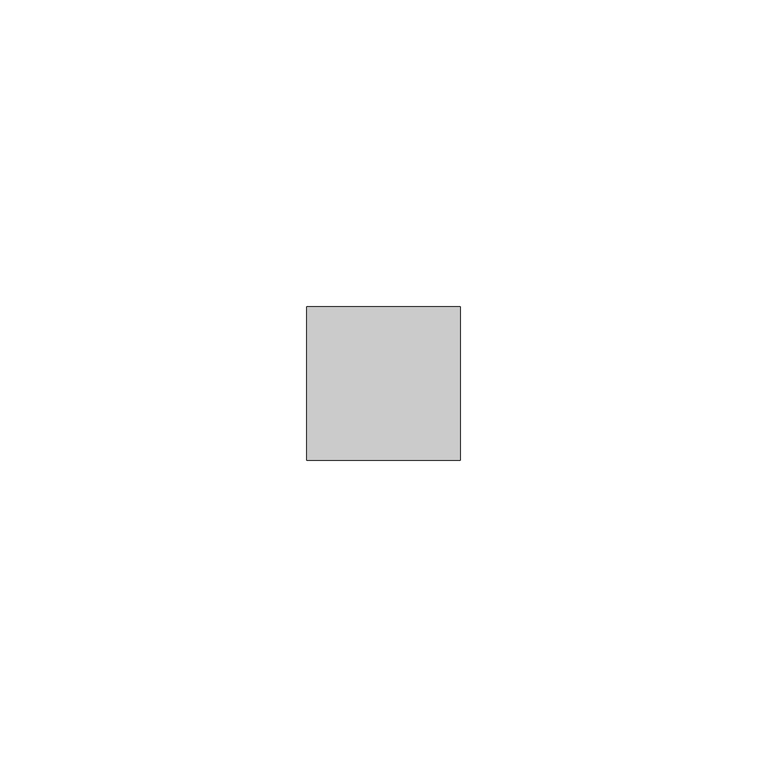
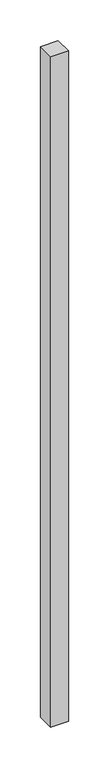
"""IFC4 building model written with IfcOpenShell, lengths in millimetres: member geometry, Obdélníková příčel : VERTI AERO."""

from ifc_helpers import new_model, si_unit, frame, origin, place, context, project, spatial, polyline, outline, extrude, source, transform, mapped, element, save


def member_5ad3e071(model_context):
    return source(origin(), model_context, "Body", "SweptSolid", [
        extrude(outline(polyline([(0.0, 12.5), (0.0, -12.5), (-25.0, -12.5), (-25.0, 12.5), (0.0, 12.5)])), frame((0.0, 0.0, -1005.0), z_axis=(0.0, 0.0, 1.0), x_axis=(1.0, 0.0, 0.0)), (0.0, 0.0, 1.0), 1005.0),
    ])


if __name__ == "__main__":
    model = new_model("IFC4")
    model_context = context("Model", 3, world=origin())
    ifc_project = project(units=[si_unit("LENGTHUNIT", "METRE", prefix="MILLI")], contexts=[model_context])
    site = spatial("IfcSite", under=ifc_project)
    building = spatial("IfcBuilding", under=site)
    placement = place(None, origin())
    member_shape = member_5ad3e071(model_context)
    element("IfcMember", 1, ObjectType="Obdélníková příčel : VERTI AERO", at=placement, inside=building, context=model_context, shape_type="MappedRepresentation", body=[
        mapped(member_shape, transform((0.0, 0.0, 0.0), x_axis=(1.0, 0.0, 0.0), y_axis=(0.0, 1.0, 0.0), z_axis=(0.0, 0.0, 1.0))),
    ])
    save(model, "model.ifc")
